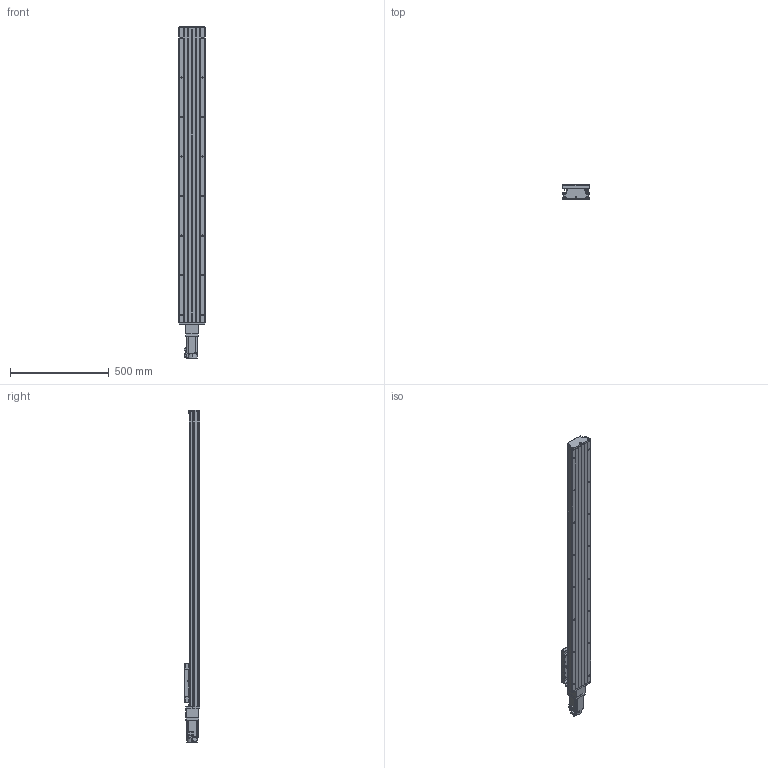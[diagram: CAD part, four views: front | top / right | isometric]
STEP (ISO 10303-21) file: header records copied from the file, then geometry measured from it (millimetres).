
FILE_DESCRIPTION (( 'STEP AP203' ), '1' );
FILE_NAME ('GTH14-1250-BC-M40-C4.step', '2023-06-30T08:32:45', ( '微软用户' ), ( '微软中国' ), 'SwSTEP 2.0', 'SolidWorks 2020', '' );
FILE_SCHEMA (( 'CONFIG_CONTROL_DESIGN' ));
Length unit declared in the file: millimetre
Products named in the file (20): CTHA86-013; GTH14-004; CTHA60-016; CTHA86-027-1; GTH14-005; GBT 70.1-M3℅5; HG-KN43J-S100; GB1155-6X6; GBT77-2000 M3×3; GBT 70.3-M3℅8; GBT70.1 M5℅16; GTH14-031; GTH14-1250-BC-M40-C4; GBT 70.2-M3¡Á5_M3¡Á6; す晦芛蹟隊 M3℅5; GTH14-001_1250; CTHA60-017; CTHA86-006-1_M40; GTH14-002_GTH14-002; EE_SX911P_R
Assembly tree (57 placements, depth 2):
  GTH14-1250-BC-M40-C4
    GTH14-001_1250
    GTH14-002_GTH14-002
    GTH14-004
    GTH14-005
    GB1155-6X6  x2
    GBT70.1 M5℅16  x10
    GBT 70.2-M3¡Á5_M3¡Á6  x8
    CTHA60-017  x3
    EE_SX911P_R  x3
    CTHA60-016  x2
    GBT 70.1-M3℅5  x6
    GBT77-2000 M3×3  x6
    GTH14-031
    す晦芛蹟隊 M3℅5  x6
    CTHA86-006-1_M40
    CTHA86-013
    CTHA86-027-1
    HG-KN43J-S100
    GBT 70.3-M3℅8  x2
Bounding box: 135 x 78 x 1678.7 mm (x, y, z)
Volume: 8250471.6 mm3; surface area: 1249562.9 mm2
Topology: 60 solids, 60 shells, 2444 faces, 5829 edges, 3602 vertices
Faces by surface type: plane 1308, cylinder 672, cone 304, torus 120, sphere 20, bspline 20
Entity records: 45344 total; most frequent: CARTESIAN_POINT 10047, DIRECTION 6696, ORIENTED_EDGE 6542, EDGE_CURVE 3271, AXIS2_PLACEMENT_3D 2295, VECTOR 2106, LINE 2106, VERTEX_POINT 2070
